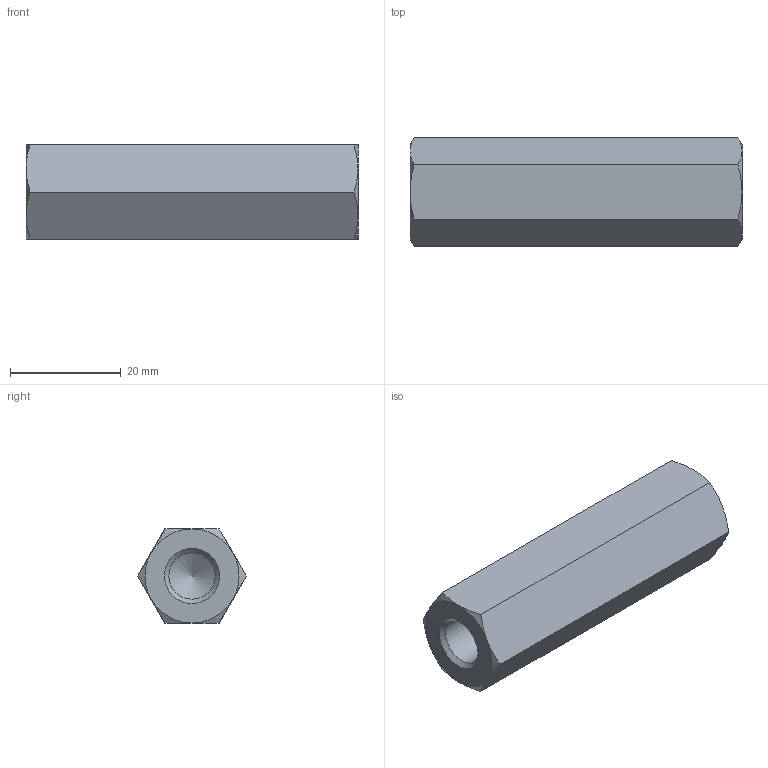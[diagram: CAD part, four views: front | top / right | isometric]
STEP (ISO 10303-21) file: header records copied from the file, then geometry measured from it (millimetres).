
FILE_DESCRIPTION( ( 'STEP AP203' ), '1' );
FILE_NAME( 'C:/Temp/Ganter_Step_05_03_2020/data/3_2/gn6220/gn6220_st/Spacer GN 6220-ST-M10-60-A.stp', '2020-03-13T05:42:37', ( 'License CC BY-ND 4.0' ), ( 'CADENAS' ), ' ', 'PARTsolutions', ' ' );
FILE_SCHEMA( ( 'CONFIG_CONTROL_DESIGN' ) );
Length unit declared in the file: millimetre
Products named in the file (1): _Spacer GN 6220-ST-M10-60-A
Bounding box: 60 x 19.63 x 17 mm (x, y, z)
Volume: 12107.2 mm3; surface area: 5337 mm2
Topology: 1 solids, 1 shells, 26 faces, 57 edges, 33 vertices
Faces by surface type: cone 16, plane 8, cylinder 2
Full cylindrical faces by diameter (mm): 8.376 x2
Entity records: 782 total; most frequent: CARTESIAN_POINT 243, DIRECTION 96, ORIENTED_EDGE 96, EDGE_CURVE 48, AXIS2_PLACEMENT_3D 45, EDGE_LOOP 32, VERTEX_POINT 32, FACE_OUTER_BOUND 28
